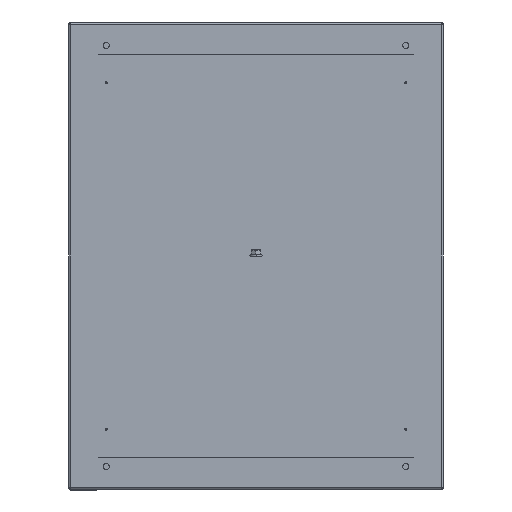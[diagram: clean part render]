
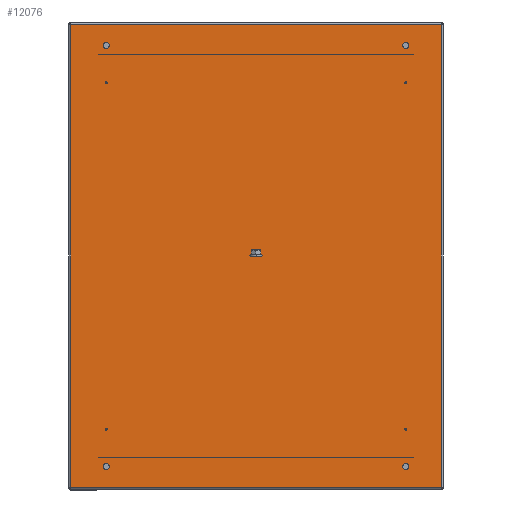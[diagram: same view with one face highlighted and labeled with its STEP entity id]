
A CAD part, front view. The second image highlights one B-rep face of the part: STEP entity #12076.
In plain terms, the highlighted planar face has unit normal (0, -1, 0).
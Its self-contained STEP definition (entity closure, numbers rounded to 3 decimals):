
#145 = CARTESIAN_POINT ( 'NONE',  ( -160., 0., 225. ) ) ;
#178 = CARTESIAN_POINT ( 'NONE',  ( 198., 0., 247.2 ) ) ;
#217 = VERTEX_POINT ( 'NONE', #6549 ) ;
#262 = CIRCLE ( 'NONE', #10788, 3.25 ) ;
#282 = CARTESIAN_POINT ( 'NONE',  ( -198., 0., -247.2 ) ) ;
#289 = VERTEX_POINT ( 'NONE', #2542 ) ;
#487 = DIRECTION ( 'NONE',  ( 0., 1., 0. ) ) ;
#620 = AXIS2_PLACEMENT_3D ( 'NONE', #1642, #9520, #11551 ) ;
#734 = CARTESIAN_POINT ( 'NONE',  ( -198., 0., -247.2 ) ) ;
#737 = EDGE_LOOP ( 'NONE', ( #10188, #8708 ) ) ;
#747 = CARTESIAN_POINT ( 'NONE',  ( 156.75, 0., -225. ) ) ;
#811 = CARTESIAN_POINT ( 'NONE',  ( -156.75, 0., -225. ) ) ;
#930 = ORIENTED_EDGE ( 'NONE', *, *, #5300, .T. ) ;
#948 = FACE_BOUND ( 'NONE', #8695, .T. ) ;
#1011 = ORIENTED_EDGE ( 'NONE', *, *, #10185, .T. ) ;
#1181 = ORIENTED_EDGE ( 'NONE', *, *, #12802, .T. ) ;
#1390 = CIRCLE ( 'NONE', #6181, 3.25 ) ;
#1428 = AXIS2_PLACEMENT_3D ( 'NONE', #10450, #3612, #10541 ) ;
#1590 = DIRECTION ( 'NONE',  ( 0., 1., 0. ) ) ;
#1642 = CARTESIAN_POINT ( 'NONE',  ( 160., 0., 225. ) ) ;
#1876 = EDGE_LOOP ( 'NONE', ( #1011, #8795, #4314, #7345 ) ) ;
#1881 = CARTESIAN_POINT ( 'NONE',  ( -163.25, 0., -225. ) ) ;
#1980 = EDGE_CURVE ( 'NONE', #8127, #4415, #11150, .T. ) ;
#2049 = EDGE_CURVE ( 'NONE', #8630, #2485, #5890, .T. ) ;
#2058 = CARTESIAN_POINT ( 'NONE',  ( -160., 0., 225. ) ) ;
#2360 = CARTESIAN_POINT ( 'NONE',  ( -160., 0., -225. ) ) ;
#2485 = VERTEX_POINT ( 'NONE', #5624 ) ;
#2542 = CARTESIAN_POINT ( 'NONE',  ( -156.75, 0., 225. ) ) ;
#2993 = VERTEX_POINT ( 'NONE', #178 ) ;
#3345 = DIRECTION ( 'NONE',  ( 1., 0., 0. ) ) ;
#3363 = CARTESIAN_POINT ( 'NONE',  ( 198., 0., 247.2 ) ) ;
#3394 = FACE_BOUND ( 'NONE', #4792, .T. ) ;
#3453 = CIRCLE ( 'NONE', #11055, 3.25 ) ;
#3473 = AXIS2_PLACEMENT_3D ( 'NONE', #145, #8843, #11912 ) ;
#3606 = CARTESIAN_POINT ( 'NONE',  ( 198., 0., -247.2 ) ) ;
#3612 = DIRECTION ( 'NONE',  ( 0., 1., 0. ) ) ;
#3699 = FACE_BOUND ( 'NONE', #9324, .T. ) ;
#4213 = EDGE_CURVE ( 'NONE', #7736, #10571, #6259, .T. ) ;
#4314 = ORIENTED_EDGE ( 'NONE', *, *, #7992, .T. ) ;
#4415 = VERTEX_POINT ( 'NONE', #9823 ) ;
#4442 = CARTESIAN_POINT ( 'NONE',  ( 160., 0., -225. ) ) ;
#4500 = FACE_OUTER_BOUND ( 'NONE', #1876, .T. ) ;
#4580 = AXIS2_PLACEMENT_3D ( 'NONE', #10303, #1590, #8479 ) ;
#4669 = DIRECTION ( 'NONE',  ( 0., 0., 1. ) ) ;
#4792 = EDGE_LOOP ( 'NONE', ( #1181, #930 ) ) ;
#4808 = VECTOR ( 'NONE', #4669, 1000. ) ;
#4845 = CARTESIAN_POINT ( 'NONE',  ( 156.75, 0., 225. ) ) ;
#4862 = ORIENTED_EDGE ( 'NONE', *, *, #9373, .T. ) ;
#5111 = VECTOR ( 'NONE', #8117, 1000. ) ;
#5207 = VECTOR ( 'NONE', #8283, 1000. ) ;
#5300 = EDGE_CURVE ( 'NONE', #9999, #8761, #262, .T. ) ;
#5395 = EDGE_CURVE ( 'NONE', #4415, #8127, #10231, .T. ) ;
#5624 = CARTESIAN_POINT ( 'NONE',  ( -198., 0., 247.2 ) ) ;
#5879 = CARTESIAN_POINT ( 'NONE',  ( -198., 0., -249.2 ) ) ;
#5884 = LINE ( 'NONE', #3606, #4808 ) ;
#5890 = LINE ( 'NONE', #11257, #8178 ) ;
#6000 = AXIS2_PLACEMENT_3D ( 'NONE', #5879, #12726, #9712 ) ;
#6062 = DIRECTION ( 'NONE',  ( 0., 1., 0. ) ) ;
#6181 = AXIS2_PLACEMENT_3D ( 'NONE', #9915, #8970, #6966 ) ;
#6259 = CIRCLE ( 'NONE', #1428, 3.25 ) ;
#6360 = LINE ( 'NONE', #282, #5111 ) ;
#6549 = CARTESIAN_POINT ( 'NONE',  ( 198., 0., -247.2 ) ) ;
#6966 = DIRECTION ( 'NONE',  ( 1., 0., 0. ) ) ;
#7345 = ORIENTED_EDGE ( 'NONE', *, *, #2049, .F. ) ;
#7349 = DIRECTION ( 'NONE',  ( -1., 0., 0. ) ) ;
#7471 = AXIS2_PLACEMENT_3D ( 'NONE', #4442, #487, #7349 ) ;
#7532 = CARTESIAN_POINT ( 'NONE',  ( -163.25, 0., 225. ) ) ;
#7554 = ORIENTED_EDGE ( 'NONE', *, *, #1980, .T. ) ;
#7692 = VERTEX_POINT ( 'NONE', #7532 ) ;
#7734 = CARTESIAN_POINT ( 'NONE',  ( 163.25, 0., 225. ) ) ;
#7736 = VERTEX_POINT ( 'NONE', #7734 ) ;
#7992 = EDGE_CURVE ( 'NONE', #2993, #2485, #12764, .T. ) ;
#8117 = DIRECTION ( 'NONE',  ( 1., 0., 0. ) ) ;
#8127 = VERTEX_POINT ( 'NONE', #747 ) ;
#8178 = VECTOR ( 'NONE', #12246, 1000. ) ;
#8283 = DIRECTION ( 'NONE',  ( -1., 0., 0. ) ) ;
#8479 = DIRECTION ( 'NONE',  ( -1., 0., 0. ) ) ;
#8630 = VERTEX_POINT ( 'NONE', #734 ) ;
#8695 = EDGE_LOOP ( 'NONE', ( #7554, #12658 ) ) ;
#8708 = ORIENTED_EDGE ( 'NONE', *, *, #10068, .T. ) ;
#8761 = VERTEX_POINT ( 'NONE', #811 ) ;
#8795 = ORIENTED_EDGE ( 'NONE', *, *, #10422, .T. ) ;
#8843 = DIRECTION ( 'NONE',  ( 0., 1., 0. ) ) ;
#8913 = EDGE_CURVE ( 'NONE', #289, #7692, #3453, .T. ) ;
#8945 = DIRECTION ( 'NONE',  ( 1., 0., 0. ) ) ;
#8970 = DIRECTION ( 'NONE',  ( 0., 1., 0. ) ) ;
#9267 = DIRECTION ( 'NONE',  ( 0., 1., 0. ) ) ;
#9324 = EDGE_LOOP ( 'NONE', ( #4862, #12466 ) ) ;
#9373 = EDGE_CURVE ( 'NONE', #10571, #7736, #11651, .T. ) ;
#9520 = DIRECTION ( 'NONE',  ( 0., 1., 0. ) ) ;
#9704 = CIRCLE ( 'NONE', #3473, 3.25 ) ;
#9712 = DIRECTION ( 'NONE',  ( -1., 0., 0. ) ) ;
#9823 = CARTESIAN_POINT ( 'NONE',  ( 163.25, 0., -225. ) ) ;
#9915 = CARTESIAN_POINT ( 'NONE',  ( -160., 0., -225. ) ) ;
#9999 = VERTEX_POINT ( 'NONE', #1881 ) ;
#10068 = EDGE_CURVE ( 'NONE', #7692, #289, #9704, .T. ) ;
#10185 = EDGE_CURVE ( 'NONE', #8630, #217, #6360, .T. ) ;
#10188 = ORIENTED_EDGE ( 'NONE', *, *, #8913, .T. ) ;
#10231 = CIRCLE ( 'NONE', #4580, 3.25 ) ;
#10303 = CARTESIAN_POINT ( 'NONE',  ( 160., 0., -225. ) ) ;
#10422 = EDGE_CURVE ( 'NONE', #217, #2993, #5884, .T. ) ;
#10450 = CARTESIAN_POINT ( 'NONE',  ( 160., 0., 225. ) ) ;
#10541 = DIRECTION ( 'NONE',  ( -1., 0., 0. ) ) ;
#10571 = VERTEX_POINT ( 'NONE', #4845 ) ;
#10788 = AXIS2_PLACEMENT_3D ( 'NONE', #2360, #9267, #3345 ) ;
#11055 = AXIS2_PLACEMENT_3D ( 'NONE', #2058, #6062, #8945 ) ;
#11150 = CIRCLE ( 'NONE', #7471, 3.25 ) ;
#11257 = CARTESIAN_POINT ( 'NONE',  ( -198., 0., -247.2 ) ) ;
#11551 = DIRECTION ( 'NONE',  ( -1., 0., 0. ) ) ;
#11651 = CIRCLE ( 'NONE', #620, 3.25 ) ;
#11912 = DIRECTION ( 'NONE',  ( 1., 0., 0. ) ) ;
#12076 = ADVANCED_FACE ( 'NONE', ( #4500, #3394, #12096, #3699, #948 ), #12811, .T. ) ;
#12096 = FACE_BOUND ( 'NONE', #737, .T. ) ;
#12246 = DIRECTION ( 'NONE',  ( 0., 0., 1. ) ) ;
#12466 = ORIENTED_EDGE ( 'NONE', *, *, #4213, .T. ) ;
#12658 = ORIENTED_EDGE ( 'NONE', *, *, #5395, .T. ) ;
#12726 = DIRECTION ( 'NONE',  ( 0., -1., 0. ) ) ;
#12764 = LINE ( 'NONE', #3363, #5207 ) ;
#12802 = EDGE_CURVE ( 'NONE', #8761, #9999, #1390, .T. ) ;
#12811 = PLANE ( 'NONE',  #6000 ) ;
